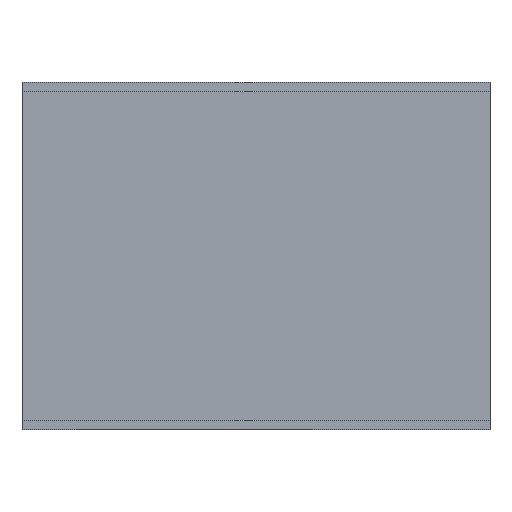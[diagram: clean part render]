
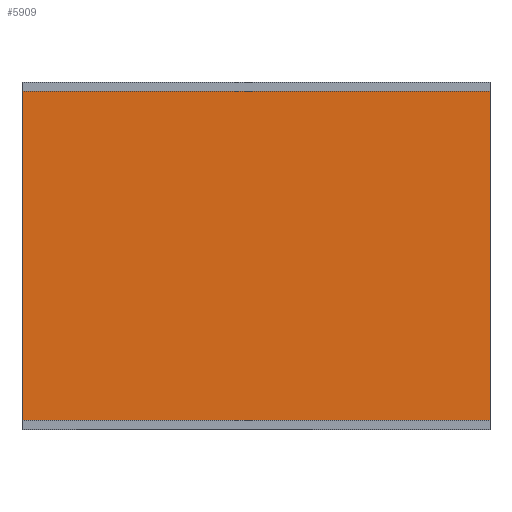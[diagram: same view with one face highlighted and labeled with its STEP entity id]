
A CAD part, top view. The second image highlights one B-rep face of the part: STEP entity #5909.
In plain terms, the highlighted planar face has unit normal (0, 0, 1).
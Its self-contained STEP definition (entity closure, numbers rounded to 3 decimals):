
#5402 = VERTEX_POINT('',#5403);
#5403 = CARTESIAN_POINT('',(0.,3.,100.));
#5410 = PLANE('',#5411);
#5411 = AXIS2_PLACEMENT_3D('',#5412,#5413,#5414);
#5412 = CARTESIAN_POINT('',(0.,3.,0.));
#5413 = DIRECTION('',(1.,0.,0.));
#5414 = DIRECTION('',(0.,0.,1.));
#5422 = PLANE('',#5423);
#5423 = AXIS2_PLACEMENT_3D('',#5424,#5425,#5426);
#5424 = CARTESIAN_POINT('',(0.,3.,0.));
#5425 = DIRECTION('',(0.,1.,0.));
#5426 = DIRECTION('',(0.,0.,1.));
#5463 = VERTEX_POINT('',#5464);
#5464 = CARTESIAN_POINT('',(0.,112.,100.));
#5478 = PLANE('',#5479);
#5479 = AXIS2_PLACEMENT_3D('',#5480,#5481,#5482);
#5480 = CARTESIAN_POINT('',(0.,112.,0.));
#5481 = DIRECTION('',(0.,1.,0.));
#5482 = DIRECTION('',(0.,0.,1.));
#5490 = EDGE_CURVE('',#5402,#5463,#5491,.T.);
#5491 = SURFACE_CURVE('',#5492,(#5496,#5503),.PCURVE_S1.);
#5492 = LINE('',#5493,#5494);
#5493 = CARTESIAN_POINT('',(0.,3.,100.));
#5494 = VECTOR('',#5495,1.);
#5495 = DIRECTION('',(0.,1.,0.));
#5496 = PCURVE('',#5410,#5497);
#5497 = DEFINITIONAL_REPRESENTATION('',(#5498),#5502);
#5498 = LINE('',#5499,#5500);
#5499 = CARTESIAN_POINT('',(100.,0.));
#5500 = VECTOR('',#5501,1.);
#5501 = DIRECTION('',(0.,-1.));
#5502 = ( GEOMETRIC_REPRESENTATION_CONTEXT(2) 
PARAMETRIC_REPRESENTATION_CONTEXT() REPRESENTATION_CONTEXT('2D SPACE',''
  ) );
#5503 = PCURVE('',#5504,#5509);
#5504 = PLANE('',#5505);
#5505 = AXIS2_PLACEMENT_3D('',#5506,#5507,#5508);
#5506 = CARTESIAN_POINT('',(0.,3.,100.));
#5507 = DIRECTION('',(0.,0.,1.));
#5508 = DIRECTION('',(1.,0.,0.));
#5509 = DEFINITIONAL_REPRESENTATION('',(#5510),#5514);
#5510 = LINE('',#5511,#5512);
#5511 = CARTESIAN_POINT('',(0.,0.));
#5512 = VECTOR('',#5513,1.);
#5513 = DIRECTION('',(0.,1.));
#5514 = ( GEOMETRIC_REPRESENTATION_CONTEXT(2) 
PARAMETRIC_REPRESENTATION_CONTEXT() REPRESENTATION_CONTEXT('2D SPACE',''
  ) );
#5755 = EDGE_CURVE('',#5402,#5756,#5758,.T.);
#5756 = VERTEX_POINT('',#5757);
#5757 = CARTESIAN_POINT('',(155.,3.,100.));
#5758 = SURFACE_CURVE('',#5759,(#5763,#5770),.PCURVE_S1.);
#5759 = LINE('',#5760,#5761);
#5760 = CARTESIAN_POINT('',(0.,3.,100.));
#5761 = VECTOR('',#5762,1.);
#5762 = DIRECTION('',(1.,0.,0.));
#5763 = PCURVE('',#5422,#5764);
#5764 = DEFINITIONAL_REPRESENTATION('',(#5765),#5769);
#5765 = LINE('',#5766,#5767);
#5766 = CARTESIAN_POINT('',(100.,0.));
#5767 = VECTOR('',#5768,1.);
#5768 = DIRECTION('',(0.,1.));
#5769 = ( GEOMETRIC_REPRESENTATION_CONTEXT(2) 
PARAMETRIC_REPRESENTATION_CONTEXT() REPRESENTATION_CONTEXT('2D SPACE',''
  ) );
#5770 = PCURVE('',#5504,#5771);
#5771 = DEFINITIONAL_REPRESENTATION('',(#5772),#5776);
#5772 = LINE('',#5773,#5774);
#5773 = CARTESIAN_POINT('',(0.,0.));
#5774 = VECTOR('',#5775,1.);
#5775 = DIRECTION('',(1.,0.));
#5776 = ( GEOMETRIC_REPRESENTATION_CONTEXT(2) 
PARAMETRIC_REPRESENTATION_CONTEXT() REPRESENTATION_CONTEXT('2D SPACE',''
  ) );
#5792 = PLANE('',#5793);
#5793 = AXIS2_PLACEMENT_3D('',#5794,#5795,#5796);
#5794 = CARTESIAN_POINT('',(155.,3.,0.));
#5795 = DIRECTION('',(1.,0.,0.));
#5796 = DIRECTION('',(0.,0.,1.));
#5909 = ADVANCED_FACE('',(#5910),#5504,.T.);
#5910 = FACE_BOUND('',#5911,.T.);
#5911 = EDGE_LOOP('',(#5912,#5913,#5914,#5937));
#5912 = ORIENTED_EDGE('',*,*,#5490,.F.);
#5913 = ORIENTED_EDGE('',*,*,#5755,.T.);
#5914 = ORIENTED_EDGE('',*,*,#5915,.T.);
#5915 = EDGE_CURVE('',#5756,#5916,#5918,.T.);
#5916 = VERTEX_POINT('',#5917);
#5917 = CARTESIAN_POINT('',(155.,112.,100.));
#5918 = SURFACE_CURVE('',#5919,(#5923,#5930),.PCURVE_S1.);
#5919 = LINE('',#5920,#5921);
#5920 = CARTESIAN_POINT('',(155.,3.,100.));
#5921 = VECTOR('',#5922,1.);
#5922 = DIRECTION('',(0.,1.,0.));
#5923 = PCURVE('',#5504,#5924);
#5924 = DEFINITIONAL_REPRESENTATION('',(#5925),#5929);
#5925 = LINE('',#5926,#5927);
#5926 = CARTESIAN_POINT('',(155.,0.));
#5927 = VECTOR('',#5928,1.);
#5928 = DIRECTION('',(0.,1.));
#5929 = ( GEOMETRIC_REPRESENTATION_CONTEXT(2) 
PARAMETRIC_REPRESENTATION_CONTEXT() REPRESENTATION_CONTEXT('2D SPACE',''
  ) );
#5930 = PCURVE('',#5792,#5931);
#5931 = DEFINITIONAL_REPRESENTATION('',(#5932),#5936);
#5932 = LINE('',#5933,#5934);
#5933 = CARTESIAN_POINT('',(100.,0.));
#5934 = VECTOR('',#5935,1.);
#5935 = DIRECTION('',(0.,-1.));
#5936 = ( GEOMETRIC_REPRESENTATION_CONTEXT(2) 
PARAMETRIC_REPRESENTATION_CONTEXT() REPRESENTATION_CONTEXT('2D SPACE',''
  ) );
#5937 = ORIENTED_EDGE('',*,*,#5938,.F.);
#5938 = EDGE_CURVE('',#5463,#5916,#5939,.T.);
#5939 = SURFACE_CURVE('',#5940,(#5944,#5951),.PCURVE_S1.);
#5940 = LINE('',#5941,#5942);
#5941 = CARTESIAN_POINT('',(0.,112.,100.));
#5942 = VECTOR('',#5943,1.);
#5943 = DIRECTION('',(1.,0.,0.));
#5944 = PCURVE('',#5504,#5945);
#5945 = DEFINITIONAL_REPRESENTATION('',(#5946),#5950);
#5946 = LINE('',#5947,#5948);
#5947 = CARTESIAN_POINT('',(0.,109.));
#5948 = VECTOR('',#5949,1.);
#5949 = DIRECTION('',(1.,0.));
#5950 = ( GEOMETRIC_REPRESENTATION_CONTEXT(2) 
PARAMETRIC_REPRESENTATION_CONTEXT() REPRESENTATION_CONTEXT('2D SPACE',''
  ) );
#5951 = PCURVE('',#5478,#5952);
#5952 = DEFINITIONAL_REPRESENTATION('',(#5953),#5957);
#5953 = LINE('',#5954,#5955);
#5954 = CARTESIAN_POINT('',(100.,0.));
#5955 = VECTOR('',#5956,1.);
#5956 = DIRECTION('',(0.,1.));
#5957 = ( GEOMETRIC_REPRESENTATION_CONTEXT(2) 
PARAMETRIC_REPRESENTATION_CONTEXT() REPRESENTATION_CONTEXT('2D SPACE',''
  ) );
